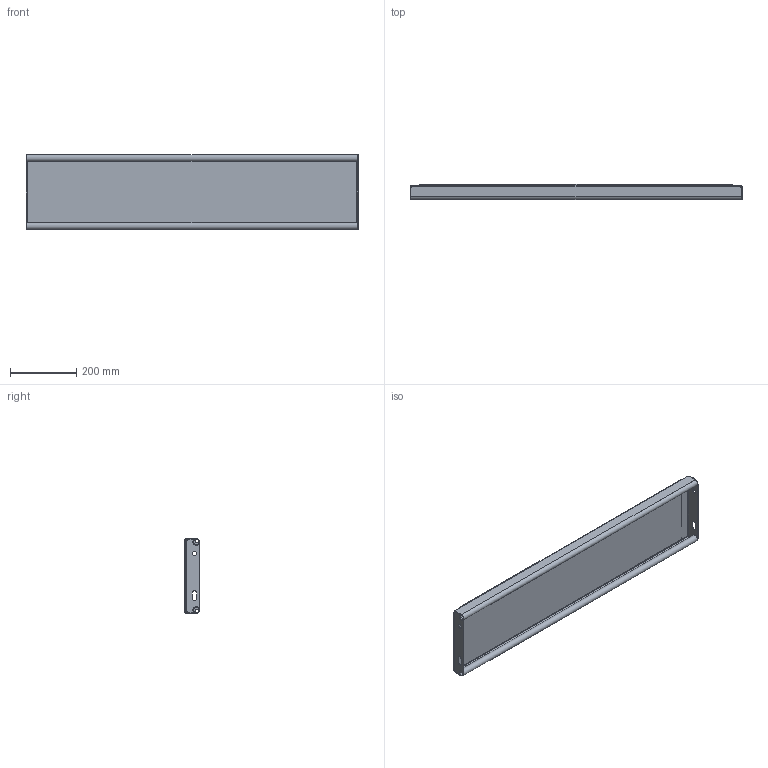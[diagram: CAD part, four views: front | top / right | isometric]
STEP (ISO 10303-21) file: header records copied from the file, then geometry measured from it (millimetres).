
FILE_DESCRIPTION (( 'STEP AP214' ), '1' );
FILE_NAME ('OPTIMO-Tread-Achil-O2-1000x225x45x2-st240-F100270100_plain.STEP', '2021-03-16T07:59:59', ( '' ), ( '' ), 'SwSTEP 2.0', 'SolidWorks 2021', '' );
FILE_SCHEMA (( 'AUTOMOTIVE_DESIGN' ));
Length unit declared in the file: millimetre
Products named in the file (1): OPTIMO-Tread-Achil-O2-1000x225x45x2-st240-F100270100_plain
Bounding box: 1000 x 45 x 225 mm (x, y, z)
Volume: 1401511.9 mm3; surface area: 803068.5 mm2
Topology: 1 solids, 1 shells, 248 faces, 640 edges, 412 vertices
Faces by surface type: plane 173, bspline 39, cylinder 36
Entity records: 9924 total; most frequent: CARTESIAN_POINT 4092, ORIENTED_EDGE 1280, DIRECTION 1022, EDGE_CURVE 640, LINE 490, VECTOR 490, VERTEX_POINT 412, EDGE_LOOP 274
